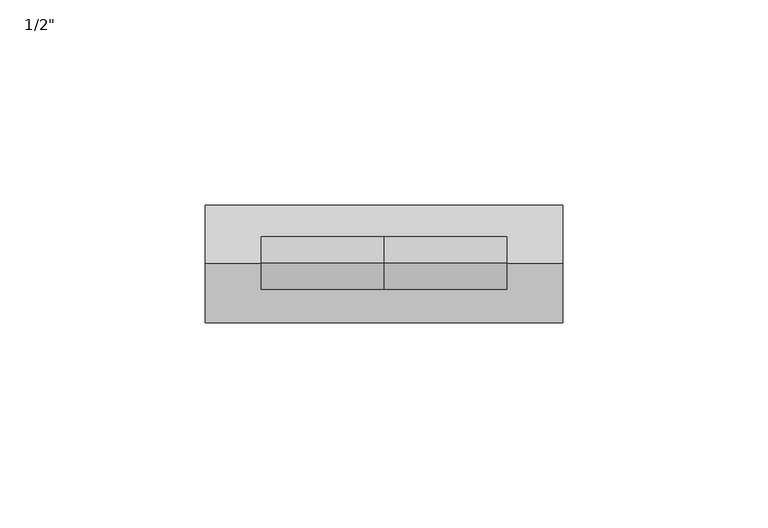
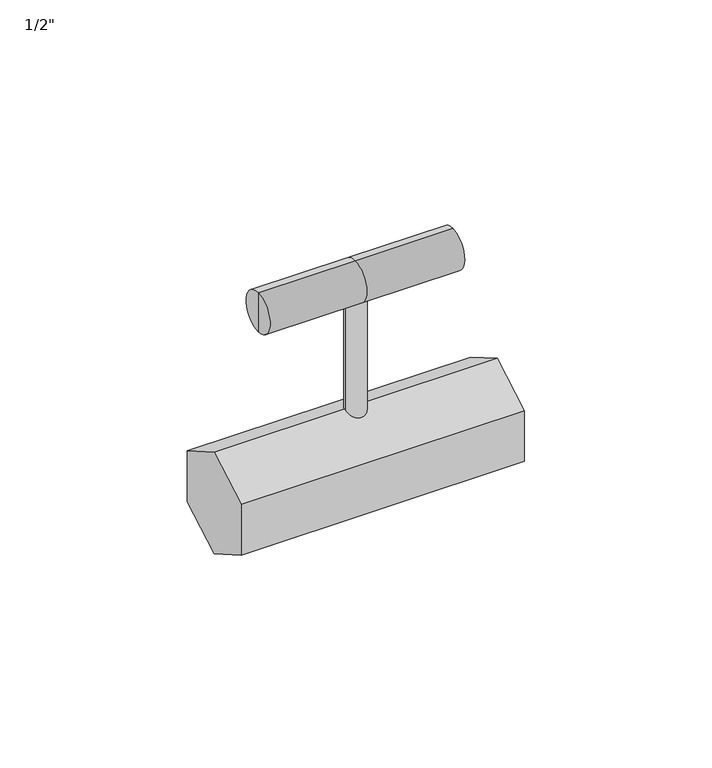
"""IFC4 building model written with IfcOpenShell, lengths in millimetres: valve geometry."""

from ifc_helpers import new_model, si_unit, frame, origin, place, context, project, spatial, polyline, circle_curve, outline, extrude, source, transform, mapped, element, save
from ifc_brep_helpers import plane_surface, cylinder_surface, advanced_brep


def valve_c61b39ea(model_context):
    return source(origin(), model_context, "Body", "SolidModel", [
        advanced_brep(
        [(-29.972, 0.0, 57.15), (-29.972, 0.0, 63.5), (-29.972, 0.0, 50.8), (29.972, 0.0, 50.8), (29.972, 0.0, 63.5), (29.972, 0.0, 57.15), (0.0, 0.0, 50.8), (0.0, 0.0, 63.5)],
        [
            (0, 1),
            (1, 2, circle_curve(frame((-29.972, 0.0, 57.15), z_axis=(-1.0, 0.0, 0.0), x_axis=(0.0, 0.0, 1.0)), 6.35)),
            (2, 0),
            (2, 1, circle_curve(frame((-29.972, 0.0, 57.15), z_axis=(-1.0, 0.0, 0.0), x_axis=(0.0, 0.0, 1.0)), 6.35)),
            (3, 4, circle_curve(frame((29.972, 0.0, 57.15), z_axis=(1.0, 0.0, 0.0), x_axis=(0.0, 0.0, 1.0)), 6.35)),
            (4, 5),
            (5, 3),
            (4, 3, circle_curve(frame((29.972, 0.0, 57.15), z_axis=(1.0, 0.0, 0.0), x_axis=(0.0, 0.0, 1.0)), 6.35)),
            (6, 7, circle_curve(frame((0.0, 0.0, 57.15), z_axis=(1.0, 0.0, 0.0), x_axis=(0.0, 0.0, 1.0)), 6.35)),
            (7, 4),
            (3, 6),
            (7, 6, circle_curve(frame((0.0, 0.0, 57.15), z_axis=(1.0, 0.0, 0.0), x_axis=(0.0, 0.0, 1.0)), 6.35)),
            (1, 7),
            (6, 2),
        ],
        [
            plane_surface(frame((-29.972, 0.0, 57.15), z_axis=(-1.0, 0.0, 0.0), x_axis=(0.0, 0.0, 1.0))),
            plane_surface(frame((29.972, 0.0, 57.15), z_axis=(1.0, 0.0, 0.0), x_axis=(0.0, 0.0, 1.0))),
            cylinder_surface(frame((-29.972, 0.0, 57.15), z_axis=(-1.0, 0.0, 0.0), x_axis=(0.0, 0.0, 1.0)), 6.35),
        ],
        [
            (0, [[1, 2, 3]]),
            (0, [[-3, 4, -1]]),
            (1, [[5, 6, 7]]),
            (1, [[8, -7, -6]]),
            (2, [[9, 10, -5, 11]]),
            (2, [[12, -11, -8, -10]]),
            (2, [[-2, 13, -9, 14]]),
            (2, [[-4, -14, -12, -13]]),
        ],
    ),
        advanced_brep(
        [(3.175, 0.0, 0.0), (-3.175, 0.0, 0.0), (-3.175, 0.0, 56.0281123), (3.175, 0.0, 56.0281123), (0.0, 0.0, 0.0), (0.0, 0.0, 56.0281123)],
        [
            (0, 1, circle_curve(frame((0.0, 0.0, 0.0), z_axis=(0.0, 0.0, 1.0), x_axis=(-1.0, 0.0, 0.0)), 3.175)),
            (1, 2),
            (2, 3, circle_curve(frame((0.0, 0.0, 56.0281123), z_axis=(0.0, 0.0, -1.0), x_axis=(-1.0, 0.0, 0.0)), 3.175)),
            (3, 0),
            (1, 0, circle_curve(frame((0.0, 0.0, 0.0), z_axis=(0.0, 0.0, 1.0), x_axis=(-1.0, 0.0, 0.0)), 3.175)),
            (3, 2, circle_curve(frame((0.0, 0.0, 56.0281123), z_axis=(0.0, 0.0, -1.0), x_axis=(-1.0, 0.0, 0.0)), 3.175)),
            (4, 1),
            (0, 4),
            (2, 5),
            (5, 3),
        ],
        [
            cylinder_surface(frame((0.0, 0.0, 2609.0581012), z_axis=(0.0, 0.0, -1.0), x_axis=(-1.0, 0.0, 0.0)), 3.175),
            plane_surface(frame((0.0, 0.0, 0.0), z_axis=(0.0, 0.0, -1.0), x_axis=(-1.0, 0.0, 0.0))),
            plane_surface(frame((0.0, 0.0, 56.0281123), z_axis=(0.0, 0.0, 1.0), x_axis=(-1.0, 0.0, 0.0))),
        ],
        [
            (0, [[1, 2, 3, 4]]),
            (0, [[5, -4, 6, -2]]),
            (1, [[7, -1, 8]]),
            (1, [[-8, -5, -7]]),
            (2, [[-3, 9, 10]]),
            (2, [[-6, -10, -9]]),
        ],
    ),
        extrude(outline(polyline([(-0.2210104, 16.4355012), (14.1354982, 8.1467671), (14.1354982, -8.430701), (-0.2210104, -16.7194351), (-14.5775189, -8.430701), (-14.5775189, 8.1467671), (-0.2210104, 16.4355012)])), frame((-43.65625, 0.0, 0.0), z_axis=(1.0, 0.0, 0.0), x_axis=(0.0, 1.0, 0.0)), (0.0, 0.0, 1.0), 87.3125),
    ])


if __name__ == "__main__":
    model = new_model("IFC4")
    model_context = context("Model", 3, world=origin())
    ifc_project = project(units=[si_unit("LENGTHUNIT", "METRE", prefix="MILLI")], contexts=[model_context])
    site = spatial("IfcSite", under=ifc_project)
    building = spatial("IfcBuilding", under=site)
    placement = place(None, origin())
    valve_shape = valve_c61b39ea(model_context)
    element("IfcValve", 1, ObjectType="Needle Valve : 1/2\"", at=placement, inside=building, context=model_context, shape_type="MappedRepresentation", body=[
        mapped(valve_shape, transform((0.0, 0.0, 0.0), x_axis=(1.0, 0.0, 0.0), y_axis=(0.0, 1.0, 0.0), z_axis=(0.0, 0.0, 1.0))),
    ])
    save(model, "model.ifc")
